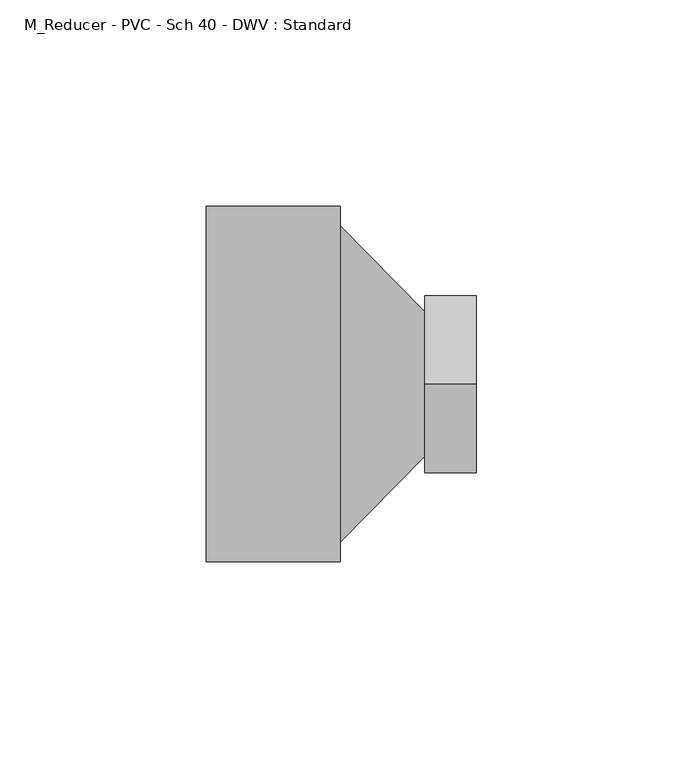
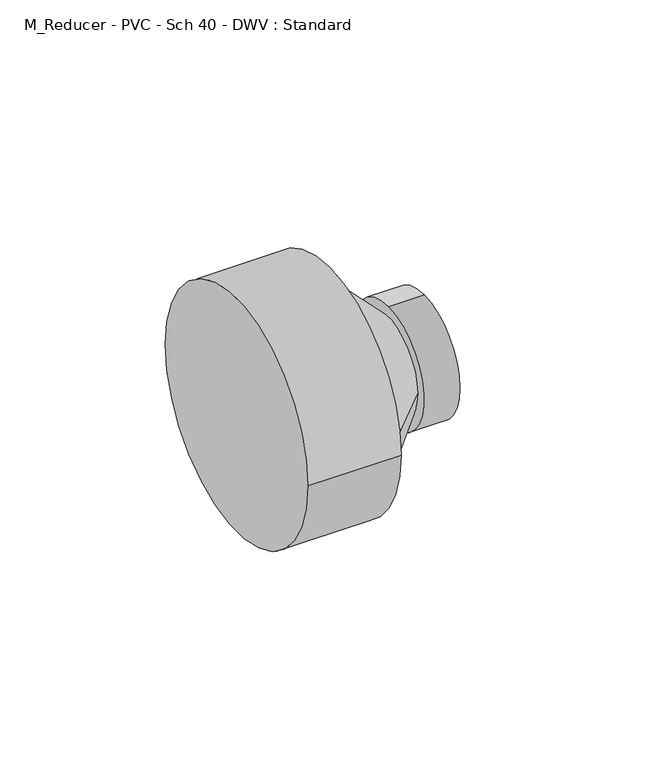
"""IFC4 building model written with IfcOpenShell, lengths in millimetres: pipe fitting geometry, M_Reducer - PVC - Sch 40 - DWV : Standard."""

from ifc_helpers import new_model, si_unit, frame, origin, place, context, project, spatial, polyline, circle_curve, source, transform, mapped, element, save
from ifc_brep_helpers import plane_surface, cylinder_surface, revolved_surface, advanced_brep


def m_reducer_pvc_sch_40_dwv_standard_7a4573f1(model_context):
    return source(origin(), model_context, "Body", "AdvancedBrep", [
        advanced_brep(
        [(0.0, -43.0871094, 0.0), (0.0, 43.0871094, 0.0), (32.5, -43.0871094, 0.0), (32.5, 43.0871094, 0.0), (32.5, 38.3640625, 0.0), (32.5, -38.3640625, 0.0), (52.9960938, 17.5640625, 0.0), (52.9960938, -17.5640625, 0.0), (52.9960938, 0.0, 21.4871094), (52.9960938, 0.0, -21.4871094), (65.4960938, 0.0, 21.4871094), (65.4960938, 0.0, -21.4871094)],
        [
            (0, 1, circle_curve(frame((0.0, 0.0, 0.0), z_axis=(-1.0, 0.0, 0.0), x_axis=(0.0, 1.0, 0.0)), 43.0871094)),
            (1, 0, circle_curve(frame((0.0, 0.0, 0.0), z_axis=(-1.0, 0.0, 0.0), x_axis=(0.0, 1.0, 0.0)), 43.0871094)),
            (2, 3, circle_curve(frame((32.5, 0.0, 0.0), z_axis=(1.0, 0.0, 0.0), x_axis=(0.0, 1.0, 0.0)), 43.0871094)),
            (3, 2, circle_curve(frame((32.5, 0.0, 0.0), z_axis=(1.0, 0.0, 0.0), x_axis=(0.0, 1.0, 0.0)), 43.0871094)),
            (4, 5, circle_curve(frame((32.5, 0.0, 0.0), z_axis=(-1.0, 0.0, 0.0), x_axis=(0.0, -1.0, 0.0)), 38.3640625)),
            (5, 4, circle_curve(frame((32.5, 0.0, 0.0), z_axis=(-1.0, 0.0, 0.0), x_axis=(0.0, 1.0, 0.0)), 38.3640625)),
            (0, 2),
            (3, 1),
            (4, 6),
            (6, 7, circle_curve(frame((52.9960938, 0.0, 0.0), z_axis=(-1.0, 0.0, 0.0), x_axis=(0.0, -1.0, 0.0)), 17.5640625)),
            (7, 5),
            (7, 6, circle_curve(frame((52.9960938, 0.0, 0.0), z_axis=(-1.0, 0.0, 0.0), x_axis=(0.0, 1.0, 0.0)), 17.5640625)),
            (8, 9, circle_curve(frame((52.9960938, 0.0, 0.0), z_axis=(-1.0, 0.0, 0.0), x_axis=(0.0, 0.0, -1.0)), 21.4871094)),
            (9, 8, circle_curve(frame((52.9960938, 0.0, 0.0), z_axis=(-1.0, 0.0, 0.0), x_axis=(0.0, 0.0, -1.0)), 21.4871094)),
            (10, 11, circle_curve(frame((65.4960938, 0.0, 0.0), z_axis=(1.0, 0.0, 0.0), x_axis=(0.0, 0.0, -1.0)), 21.4871094)),
            (11, 10, circle_curve(frame((65.4960938, 0.0, 0.0), z_axis=(1.0, 0.0, 0.0), x_axis=(0.0, 0.0, -1.0)), 21.4871094)),
            (8, 10),
            (11, 9),
        ],
        [
            plane_surface(frame((0.0, 0.0, 0.0), z_axis=(-1.0, 0.0, 0.0), x_axis=(0.0, 0.0, 1.0))),
            plane_surface(frame((32.5, 0.0, 0.0), z_axis=(1.0, 0.0, 0.0), x_axis=(0.0, 0.0, 1.0))),
            cylinder_surface(frame((0.0, 0.0, 0.0), z_axis=(-1.0, 0.0, 0.0), x_axis=(0.0, 1.0, 0.0)), 43.0871094),
            revolved_surface(polyline([(52.9960938, 17.564062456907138, 0.0), (32.5, 38.3640625, 0.0)]), (70.3035299, 0.0, 0.0), (-1.0, 0.0, 0.0)),
            plane_surface(frame((52.9960938, 0.0, 0.0), z_axis=(-1.0, 0.0, 0.0), x_axis=(0.0, 1.0, 0.0))),
            plane_surface(frame((65.4960938, 0.0, 0.0), z_axis=(1.0, 0.0, 0.0), x_axis=(0.0, 1.0, 0.0))),
            cylinder_surface(frame((52.9960938, 0.0, 0.0), z_axis=(-1.0, 0.0, 0.0), x_axis=(0.0, 0.0, -1.0)), 21.4871094),
        ],
        [
            (0, [[1, 2]]),
            (1, [[3, 4], [5, 6]]),
            (2, [[-1, 7, -4, 8]]),
            (2, [[-2, -8, -3, -7]]),
            (3, [[9, 10, 11, -5]]),
            (3, [[-9, -6, -11, 12]]),
            (4, [[13, 14], [-10, -12]]),
            (5, [[15, 16]]),
            (6, [[-13, 17, -16, 18]]),
            (6, [[-14, -18, -15, -17]]),
        ],
    ),
    ])


if __name__ == "__main__":
    model = new_model("IFC4")
    model_context = context("Model", 3, world=origin())
    ifc_project = project(units=[si_unit("LENGTHUNIT", "METRE", prefix="MILLI")], contexts=[model_context])
    site = spatial("IfcSite", under=ifc_project)
    building = spatial("IfcBuilding", under=site)
    placement = place(None, origin())
    m_reducer_pvc_sch_40_dwv_standard_shape = m_reducer_pvc_sch_40_dwv_standard_7a4573f1(model_context)
    element("IfcPipeFitting", 1, ObjectType="M_Reducer - PVC - Sch 40 - DWV : Standard", at=placement, inside=building, context=model_context, shape_type="MappedRepresentation", body=[
        mapped(m_reducer_pvc_sch_40_dwv_standard_shape, transform((0.0, 0.0, 0.0), x_axis=(1.0, 0.0, 0.0), y_axis=(0.0, 1.0, 0.0), z_axis=(0.0, 0.0, 1.0))),
    ])
    save(model, "model.ifc")
